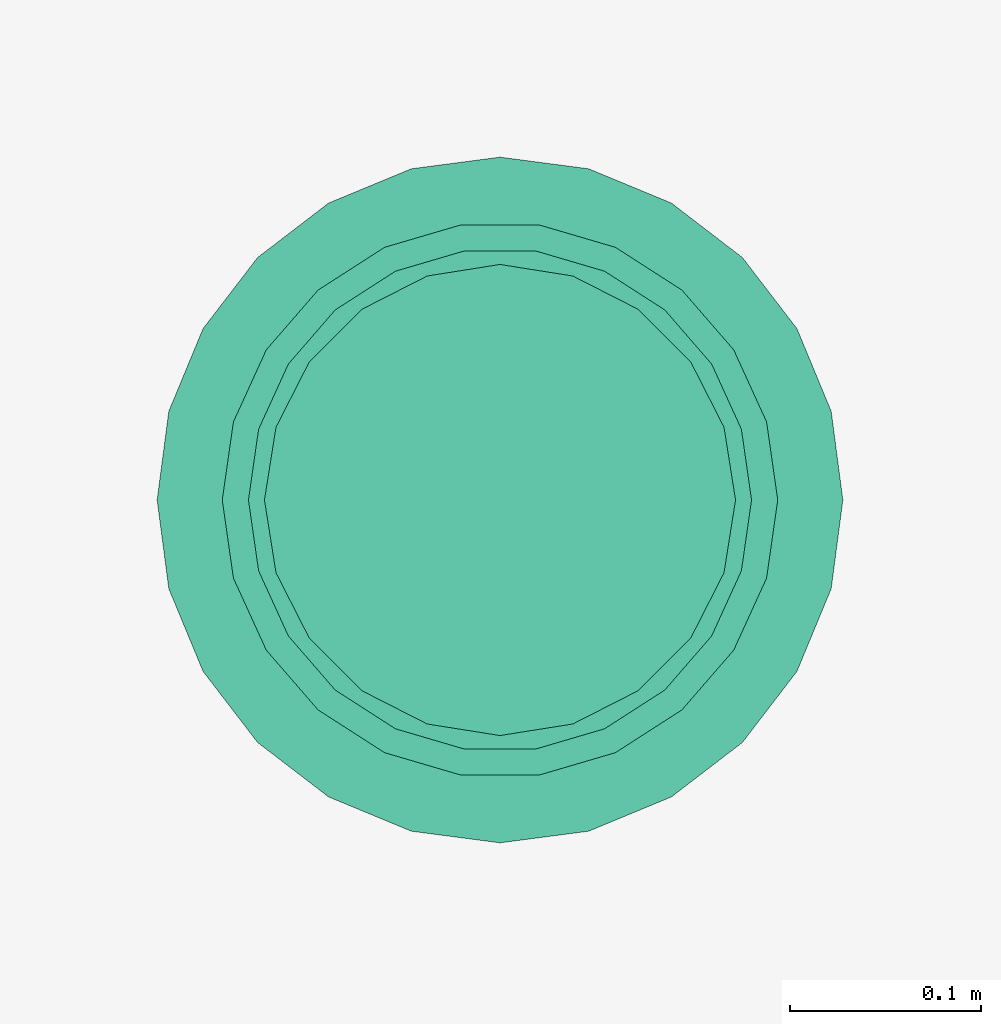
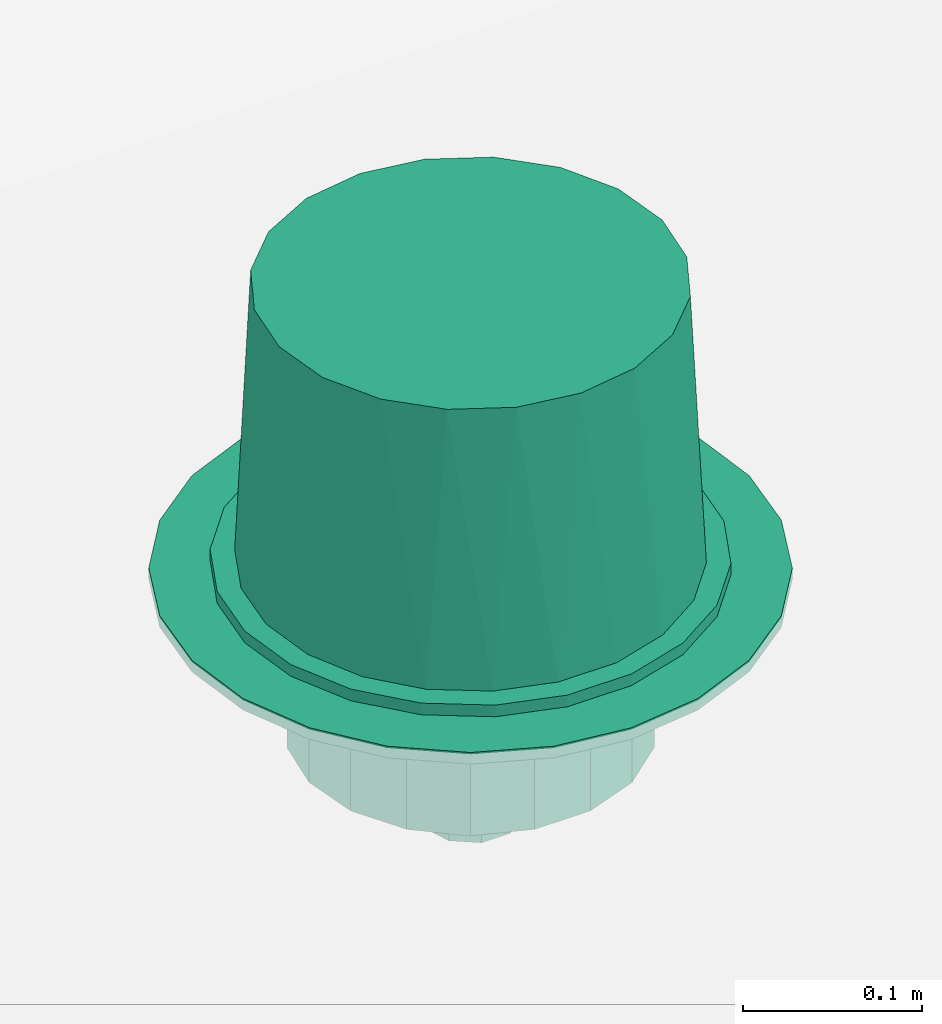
# One storey, part 5 of 6: 1 flow terminal.
"""IFC2X3 building model written with IfcOpenShell, lengths in millimetres."""

from ifc_helpers import new_model, entity, si_unit, converted_unit, direction, frame, origin, place, context, subcontext, project, spatial, faceted_brep, source, transform, mapped, material, material_list, type_object, type_shapes, element, save


model = new_model("IFC2X3")

# Units and contexts
model_context = context("Model", 3, precision=0.01, world=origin(), true_north=direction((6.123233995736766e-17, 1.0)))
plan_context = context("Plan", 3, precision=0.01, world=origin(), true_north=direction((6.123233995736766e-17, 1.0)))
body_context = subcontext(model_context, "Body", "Model", "MODEL_VIEW")
ifc_project = project(units=[si_unit("LENGTHUNIT", "METRE", prefix="MILLI"), converted_unit("PLANEANGLEUNIT", "DEGREE", entity("IfcPlaneAngleMeasure", 0.017453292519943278), si_unit("PLANEANGLEUNIT", "RADIAN"), dimensions=[0, 0, 0, 0, 0, 0, 0]), si_unit("AREAUNIT", "SQUARE_METRE")], contexts=[model_context, plan_context])

# Site, building, storey
site_placement = place(None, origin())
site = spatial("IfcSite", under=ifc_project, at=site_placement, Name="Default", CompositionType="ELEMENT")
building_placement = place(site_placement, origin())
building = spatial("IfcBuilding", under=site, at=building_placement, CompositionType="ELEMENT")
storey_placement = place(building_placement, frame((0.0, 0.0, 16500.0)))
storey = spatial("IfcBuildingStorey", under=building, at=storey_placement, Name="Parapet", CompositionType="ELEMENT", Elevation=16499.999999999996)

# Flow terminal
ifc_material_1 = material(Name="Metal-WATTS-Cast Iron")
ifc_material_2 = material(Name="Platic-WATTS_Polyethylene")
ifc_material_list = material_list([ifc_material_1, ifc_material_2])
distribution_element_type = type_object("IfcDistributionElementType", Name="Drain-Roof-WATTS-Large_Area-Type_RD-100:2\"", material=ifc_material_list)
shared_shape = source(origin(), body_context, "Body", "Brep", [
    faceted_brep([(-173.21368287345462, 46.41246644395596, 0.0), (-173.21368287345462, 46.41246644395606, -7.924800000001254), (-179.32399999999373, 0.0, -7.924800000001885), (-179.32399999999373, 0.0, 0.0), (-155.29913950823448, 89.66199999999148, 0.0), (-155.29913950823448, 89.66199999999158, -7.924800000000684), (-89.6619999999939, 155.29913950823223, -7.924799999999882), (-126.80121642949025, 126.80121642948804, -7.924800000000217), (-126.80121642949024, 126.80121642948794, 0.0), (-89.66199999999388, 155.29913950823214, 0.0), (-46.41246644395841, 173.21368287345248, -7.9247999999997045), (-46.412466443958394, 173.21368287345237, 0.0), (0.0, 179.32399999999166, -7.924799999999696), (0.0, 179.32399999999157, 0.0), (46.41246644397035, 173.2136828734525, 0.0), (46.41246644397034, 173.21368287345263, -7.924799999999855), (155.2991395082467, 89.66199999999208, -7.924800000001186), (155.2991395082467, 89.66199999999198, 0.0), (173.213682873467, 46.412466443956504, 0.0), (173.213682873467, 46.41246644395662, -7.924800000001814), (126.80121642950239, 126.80121642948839, -7.924800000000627), (126.8012164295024, 126.80121642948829, 0.0), (179.32400000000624, 0.0, 0.0), (179.32400000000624, 0.0, -7.924800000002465), (89.66200000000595, 155.29913950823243, 0.0), (89.66200000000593, 155.29913950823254, -7.924800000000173), (173.21368287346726, -46.41246644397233, 0.0), (173.21368287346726, -46.412466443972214, -7.9248000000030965), (155.29913950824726, -89.66200000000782, 0.0), (155.29913950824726, -89.66200000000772, -7.924800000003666), (89.66200000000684, -155.2991395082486, -7.924800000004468), (126.8012164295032, -126.80121642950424, -7.924800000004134), (126.80121642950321, -126.80121642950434, 0.0), (89.66200000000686, -155.29913950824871, 0.0), (46.41246644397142, -173.213682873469, -7.9248000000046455), (46.41246644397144, -173.2136828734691, 0.0), (0.0, -179.3240000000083, -7.924800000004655), (0.0, -179.32400000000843, 0.0), (-46.41246644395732, -173.2136828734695, 0.0), (-46.412466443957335, -173.2136828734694, -7.924800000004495), (-89.66199999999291, -155.29913950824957, 0.0), (-89.66199999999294, -155.29913950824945, -7.924800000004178), (-155.29913950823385, -89.66200000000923, -7.924800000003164), (-126.80121642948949, -126.80121642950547, -7.9248000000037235), (-126.80121642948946, -126.80121642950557, 0.0), (-155.29913950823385, -89.66200000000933, 0.0), (-173.21368287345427, -46.41246644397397, -7.924800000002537), (-173.21368287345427, -46.412466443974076, 0.0), (157.17520000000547, 0.0, -7.924800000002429), (151.8195849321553, -40.679935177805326, -7.924800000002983), (136.11771604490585, -78.58760000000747, -7.924800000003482), (111.13964975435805, -111.13964975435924, -7.924800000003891), (78.58760000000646, -136.1177160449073, -7.9248000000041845), (40.679935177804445, -151.81958493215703, -7.92480000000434), (0.0, -157.1752000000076, -7.924800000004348), (-40.67993517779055, -151.8195849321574, -7.9248000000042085), (-78.58759999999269, -136.117716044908, -7.9248000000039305), (-111.13964975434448, -111.13964975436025, -7.924800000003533), (-136.11771604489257, -78.58760000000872, -7.924800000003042), (-151.81958493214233, -40.67993517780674, -7.9248000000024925), (-157.17519999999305, 0.0, -7.924800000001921), (-151.81958493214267, 40.67993517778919, -7.924800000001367), (-136.1177160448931, 78.58759999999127, -7.924800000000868), (-111.13964975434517, 111.13964975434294, -7.924800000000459), (-78.58759999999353, 136.11771604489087, -7.924800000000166), (-40.67993517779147, 151.8195849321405, -7.924800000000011), (0.0, 157.17519999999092, -7.924800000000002), (40.67993517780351, 151.81958493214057, -7.9248000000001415), (78.5876000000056, 136.11771604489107, -7.9248000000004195), (111.13964975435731, 111.13964975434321, -7.924800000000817), (136.11771604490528, 78.58759999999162, -7.924800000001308), (151.81958493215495, 40.67993517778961, -7.924800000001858), (-136.11771604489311, 78.5875999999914, -16.66240000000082), (-151.81958493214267, 40.679935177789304, -16.662400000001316), (-157.17519999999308, 0.0, -16.66240000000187), (-40.679935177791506, 151.81958493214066, -16.66239999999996), (-78.58759999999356, 136.11771604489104, -16.662400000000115), (-111.1396497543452, 111.13964975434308, -16.662400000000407), (0.0, 157.17519999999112, -16.662399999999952), (78.58760000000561, 136.11771604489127, -16.662400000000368), (40.67993517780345, 151.8195849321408, -16.66240000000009), (136.11771604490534, 78.58759999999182, -16.66240000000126), (111.13964975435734, 111.13964975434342, -16.662400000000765), (151.819584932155, 40.67993517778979, -16.662400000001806), (157.17520000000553, 0.0, -16.66240000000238), (136.11771604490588, -78.58760000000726, -16.662400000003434), (151.81958493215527, -40.6799351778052, -16.662400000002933), (40.67993517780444, -151.8195849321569, -16.66240000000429), (78.58760000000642, -136.11771604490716, -16.662400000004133), (111.13964975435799, -111.13964975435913, -16.662400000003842), (0.0, -157.1752000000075, -16.6624000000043), (-111.1396497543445, -111.13964975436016, -16.662400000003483), (-78.58759999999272, -136.11771604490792, -16.66240000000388), (-40.67993517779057, -151.81958493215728, -16.66240000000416), (-151.81958493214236, -40.67993517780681, -16.662400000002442), (-136.1177160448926, -78.58760000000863, -16.662400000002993), (103.9876000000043, 0.0, -16.662400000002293), (97.71638037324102, 35.56585385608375, -16.662400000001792), (97.71638037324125, -35.56585385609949, -16.662400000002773), (79.65912313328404, -66.84194084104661, -16.662400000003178), (51.993800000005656, -90.05590327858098, -16.66240000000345), (18.057257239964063, -102.4077946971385, -16.66240000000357), (-18.057257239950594, -102.40779469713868, -16.66240000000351), (-51.993799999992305, -90.05590327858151, -16.662400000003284), (-79.65912313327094, -66.8419408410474, -16.66240000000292), (-97.71638037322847, -35.56585385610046, -16.66240000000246), (-103.98759999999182, 0.0, -16.66240000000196), (-97.71638037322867, 35.56585385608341, -16.662400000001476), (-79.65912313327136, 66.84194084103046, -16.66240000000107), (-51.993799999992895, 90.05590327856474, -16.662400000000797), (-18.05725723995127, 102.40779469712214, -16.66240000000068), (18.057257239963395, 102.40779469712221, -16.662400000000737), (51.99380000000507, 90.05590327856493, -16.662400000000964), (79.65912313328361, 66.84194084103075, -16.66240000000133), (-97.71638037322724, 35.56585385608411, -109.52479999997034), (-103.98759999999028, 0.0, -109.52479999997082), (-18.05725723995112, 102.40779469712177, -109.52479999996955), (-51.99379999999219, 90.0559032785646, -109.52479999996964), (-79.65912313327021, 66.84194084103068, -109.52479999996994), (18.05725723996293, 102.40779469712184, -109.5247999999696), (51.993800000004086, 90.05590327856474, -109.52479999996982), (79.65912313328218, 66.84194084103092, -109.5247999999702), (97.7163803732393, 35.56585385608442, -109.52479999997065), (103.98760000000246, 0.0, -109.52479999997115), (97.71638037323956, -35.56585385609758, -109.52479999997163), (79.65912313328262, -66.84194084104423, -109.52479999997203), (51.99380000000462, -90.05590327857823, -109.52479999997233), (18.05725723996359, -102.40779469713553, -109.52479999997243), (-18.057257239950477, -102.4077946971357, -109.52479999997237), (-51.99379999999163, -90.05590327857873, -109.52479999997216), (-79.65912313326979, -66.84194084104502, -109.52479999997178), (-97.71638037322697, -35.56585385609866, -109.52479999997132), (29.718000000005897, 0.0, -109.52479999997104), (26.880183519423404, 8.733901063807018, -109.52479999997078), (24.042367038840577, 17.467802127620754, -109.52479999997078), (26.88018351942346, -8.733901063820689, -109.52479999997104), (24.04236703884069, -17.467802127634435, -109.52479999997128), (16.61286703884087, -22.865649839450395, -109.52479999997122), (9.183367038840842, -28.26349755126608, -109.52479999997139), (0.0, -28.263497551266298, -109.52479999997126), (-9.183367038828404, -28.26349755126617, -109.52479999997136), (-16.61286703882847, -22.865649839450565, -109.52479999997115), (-24.04236703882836, -17.467802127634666, -109.5247999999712), (-26.8801835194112, -8.733901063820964, -109.52479999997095), (-29.71799999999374, 0.0, -109.52479999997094), (-26.880183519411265, 8.733901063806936, -109.5247999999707), (-24.042367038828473, 17.467802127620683, -109.5247999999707), (-16.61286703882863, 22.865649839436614, -109.52479999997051), (-9.183367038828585, 28.263497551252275, -109.52479999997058), (0.0, 28.263497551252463, -109.52479999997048), (9.183367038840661, 28.263497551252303, -109.52479999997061), (16.61286703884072, 22.865649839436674, -109.52479999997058), (-24.042367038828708, 17.467802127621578, -166.6747999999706), (-27.09249497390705, 8.080473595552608, -166.67479999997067), (-29.717999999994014, 0.0, -166.67479999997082), (9.183367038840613, 28.263497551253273, -166.67479999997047), (24.04236703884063, 17.46780212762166, -166.67479999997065), (16.612867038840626, 22.865649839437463, -166.67479999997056), (-9.183367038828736, 28.263497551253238, -166.67479999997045), (-16.612867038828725, 22.86564983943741, -166.6747999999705), (0.0, 28.263497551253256, -166.67479999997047), (27.09249506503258, 8.08047331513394, -166.67479999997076), (29.718000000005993, 0.0, -166.6747999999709), (24.042367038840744, -17.467802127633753, -166.67479999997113), (9.18336703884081, -28.26349755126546, -166.67479999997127), (16.612867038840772, -22.865649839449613, -166.67479999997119), (26.88018351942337, -8.733901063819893, -166.67479999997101), (-27.092495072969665, -8.080473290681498, -166.67479999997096), (-24.042367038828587, -17.467802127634, -166.67479999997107), (-9.18336703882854, -28.26349755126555, -166.6747999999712), (0.0, -28.263497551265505, -166.6747999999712), (-16.61286703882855, -22.865649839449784, -166.67479999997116), (0.0, 0.0, -166.67479999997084), (0.0, 0.0, 0.0)], [[[0, 1, 2, 3]], [[4, 5, 1, 0]], [[6, 7, 8, 9]], [[4, 8, 7, 5]], [[10, 6, 9, 11]], [[12, 10, 11, 13]], [[13, 14, 15, 12]], [[16, 17, 18, 19]], [[17, 16, 20, 21]], [[19, 18, 22, 23]], [[15, 14, 24, 25]], [[24, 21, 20, 25]], [[26, 27, 23, 22]], [[28, 29, 27, 26]], [[30, 31, 32, 33]], [[28, 32, 31, 29]], [[34, 30, 33, 35]], [[36, 34, 35, 37]], [[38, 39, 36, 37]], [[40, 41, 39, 38]], [[42, 43, 44, 45]], [[40, 44, 43, 41]], [[46, 47, 3, 2]], [[46, 42, 45, 47]], [[23, 48, 19]], [[23, 27, 48]], [[48, 27, 49]], [[29, 49, 27]], [[50, 49, 29]], [[31, 50, 29]], [[50, 31, 51]], [[51, 31, 30]], [[51, 30, 52]], [[52, 30, 34]], [[34, 53, 52]], [[36, 53, 34]], [[53, 36, 54]], [[55, 54, 36]], [[36, 39, 55]], [[55, 39, 56]], [[41, 56, 39]], [[57, 56, 41]], [[57, 41, 43]], [[57, 43, 58]], [[43, 42, 58]], [[59, 58, 42]], [[46, 59, 42]], [[46, 60, 59]], [[2, 60, 46]], [[60, 2, 1]], [[60, 1, 61]], [[5, 61, 1]], [[62, 61, 5]], [[62, 5, 7]], [[7, 63, 62]], [[63, 7, 6]], [[6, 64, 63]], [[64, 6, 10]], [[10, 65, 64]], [[12, 65, 10]], [[12, 66, 65]], [[12, 67, 66]], [[67, 12, 15]], [[68, 67, 15]], [[68, 15, 25]], [[25, 69, 68]], [[20, 69, 25]], [[69, 20, 70]], [[16, 70, 20]], [[16, 71, 70]], [[71, 16, 19]], [[19, 48, 71]], [[61, 62, 72, 73]], [[60, 61, 73, 74]], [[64, 65, 75, 76]], [[63, 64, 76, 77]], [[62, 63, 77, 72]], [[78, 75, 65, 66]], [[79, 80, 67, 68]], [[80, 78, 66, 67]], [[70, 81, 82, 69]], [[79, 68, 69, 82]], [[81, 70, 71, 83]], [[84, 83, 71, 48]], [[49, 50, 85, 86]], [[48, 49, 86, 84]], [[52, 53, 87, 88]], [[51, 52, 88, 89]], [[50, 51, 89, 85]], [[90, 87, 53, 54]], [[56, 57, 91, 92]], [[55, 56, 92, 93]], [[59, 60, 74, 94]], [[58, 59, 94, 95]], [[57, 58, 95, 91]], [[55, 93, 90, 54]], [[83, 84, 96]], [[96, 97, 83]], [[83, 97, 81]], [[96, 84, 86]], [[98, 96, 86]], [[98, 86, 85]], [[99, 98, 85]], [[85, 89, 99]], [[89, 100, 99]], [[89, 88, 100]], [[87, 100, 88]], [[100, 87, 101]], [[101, 87, 90]], [[90, 102, 101]], [[90, 93, 102]], [[102, 93, 103]], [[92, 103, 93]], [[103, 92, 91]], [[103, 91, 104]], [[104, 91, 95]], [[105, 104, 95]], [[94, 105, 95]], [[106, 105, 94]], [[94, 74, 106]], [[73, 106, 74]], [[107, 106, 73]], [[107, 73, 72]], [[108, 107, 72]], [[108, 72, 77]], [[77, 109, 108]], [[109, 77, 76]], [[109, 76, 75]], [[75, 110, 109]], [[78, 110, 75]], [[110, 78, 111]], [[80, 111, 78]], [[112, 111, 80]], [[112, 80, 79]], [[82, 112, 79]], [[82, 81, 113]], [[113, 112, 82]], [[81, 97, 113]], [[114, 115, 106, 107]], [[109, 110, 116, 117]], [[107, 108, 118, 114]], [[109, 117, 118, 108]], [[110, 111, 119, 116]], [[119, 111, 112, 120]], [[121, 113, 97, 122]], [[112, 113, 121, 120]], [[122, 97, 96, 123]], [[124, 123, 96, 98]], [[125, 99, 100, 126]], [[98, 99, 125, 124]], [[126, 100, 101, 127]], [[101, 102, 128, 127]], [[128, 102, 103, 129]], [[130, 104, 105, 131]], [[103, 104, 130, 129]], [[131, 105, 106, 115]], [[122, 123, 132]], [[122, 132, 133]], [[122, 133, 134]], [[122, 134, 121]], [[123, 124, 132]], [[124, 135, 132]], [[124, 136, 135]], [[136, 124, 125]], [[136, 125, 126]], [[126, 137, 136]], [[126, 138, 137]], [[138, 126, 127]], [[127, 128, 138]], [[128, 139, 138]], [[128, 140, 139]], [[140, 128, 129]], [[129, 141, 140]], [[129, 142, 141]], [[129, 130, 142]], [[131, 142, 130]], [[131, 143, 142]], [[131, 144, 143]], [[115, 144, 131]], [[115, 114, 144]], [[114, 145, 144]], [[114, 146, 145]], [[114, 118, 146]], [[118, 117, 146]], [[117, 147, 146]], [[117, 148, 147]], [[116, 148, 117]], [[116, 149, 148]], [[116, 150, 149]], [[150, 116, 119]], [[150, 119, 120]], [[120, 134, 151]], [[121, 134, 120]], [[120, 151, 150]], [[152, 153, 154, 144, 145, 146]], [[155, 150, 151, 134, 156, 157]], [[148, 158, 159, 152, 146, 147]], [[160, 158, 148, 149, 150, 155]], [[161, 156, 134, 133, 132, 162]], [[163, 136, 137, 138, 164, 165]], [[166, 162, 132, 135, 136, 163]], [[144, 154, 167, 168, 142, 143]], [[164, 138, 139, 140, 169, 170]], [[171, 169, 140, 141, 142, 168]], [[172, 155, 157]], [[172, 157, 156]], [[172, 156, 161]], [[172, 161, 162]], [[172, 162, 166]], [[172, 160, 155]], [[172, 158, 160]], [[172, 159, 158]], [[172, 152, 159]], [[172, 153, 152]], [[172, 154, 153]], [[172, 166, 163]], [[172, 163, 165]], [[172, 165, 164]], [[172, 164, 170]], [[172, 167, 154]], [[172, 168, 167]], [[172, 171, 168]], [[172, 169, 171]], [[172, 170, 169]], [[18, 173, 22]], [[17, 173, 18]], [[21, 173, 17]], [[24, 173, 21]], [[24, 14, 173]], [[14, 13, 173]], [[13, 11, 173]], [[9, 173, 11]], [[8, 173, 9]], [[4, 173, 8]], [[4, 0, 173]], [[0, 3, 173]], [[173, 3, 47]], [[47, 45, 173]], [[44, 173, 45]], [[44, 40, 173]], [[40, 38, 173]], [[37, 173, 38]], [[173, 37, 35]], [[35, 33, 173]], [[32, 173, 33]], [[173, 32, 28]], [[173, 28, 26]], [[173, 26, 22]]]),
    faceted_brep([(95.14340631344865, 109.8013441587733, 0.0), (122.22404327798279, 78.54862308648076, 0.0), (0.0, 0.0, 0.0), (60.35481640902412, 132.158613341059, 0.0), (139.40281515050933, 40.9323597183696, 0.0), (145.28800000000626, 0.0, 0.0), (139.40281515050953, -40.93235971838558, 0.0), (122.22404327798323, -78.54862308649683, 0.0), (95.1434063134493, -109.80134415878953, 0.0), (60.35481640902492, -132.15861334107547, 0.0), (20.676638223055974, -143.80917764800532, 0.0), (-20.6766382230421, -143.80917764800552, 0.0), (-60.354816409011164, -132.15861334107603, 0.0), (-95.14340631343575, -109.80134415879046, 0.0), (-122.22404327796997, -78.54862308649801, 0.0), (-139.40281515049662, -40.93235971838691, 0.0), (-145.28799999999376, 0.0, 0.0), (-139.40281515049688, 40.93235971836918, 0.0), (-122.22404327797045, 78.54862308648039, 0.0), (-95.14340631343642, 109.801344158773, 0.0), (-60.35481640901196, 132.1586133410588, 0.0), (-20.67663822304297, 143.80917764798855, 0.0), (20.676638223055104, 143.8091776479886, 0.0), (117.16065224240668, 38.06780353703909, 193.64960000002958), (0.0, 0.0, 193.64960000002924), (123.19000000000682, 0.0, 193.64960000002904), (99.66280353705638, 72.40926522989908, 193.6496000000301), (72.40926522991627, 99.66280353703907, 193.6496000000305), (38.0678035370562, 117.16065224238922, 193.6496000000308), (0.0, 123.18999999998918, 193.64960000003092), (-38.06780353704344, 117.16065224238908, 193.64960000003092), (-72.40926522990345, 99.66280353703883, 193.64960000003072), (-99.66280353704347, 72.40926522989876, 193.64960000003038), (-117.1606522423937, 38.06780353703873, 193.64960000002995), (-123.18999999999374, 0.0, 193.64960000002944), (-117.16065224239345, -38.06780353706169, 193.6496000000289), (-99.66280353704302, -72.40926522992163, 193.64960000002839), (-72.40926522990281, -99.66280353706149, 193.649600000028), (-38.06780353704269, -117.16065224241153, 193.64960000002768), (0.0, -123.1900000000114, 193.64960000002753), (38.06780353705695, -117.16065224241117, 193.64960000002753), (72.40926522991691, -99.66280353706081, 193.64960000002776), (99.66280353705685, -72.40926522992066, 193.64960000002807), (117.16065224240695, -38.06780353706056, 193.64960000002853), (-126.24240952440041, 37.06811596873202, 7.924800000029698), (-86.16133648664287, 99.43548299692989, 7.924800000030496), (-54.65698409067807, 119.68210089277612, 7.924800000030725), (-110.68540982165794, 71.1331936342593, 7.924800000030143), (-131.57199999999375, 0.0, 7.924800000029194), (-18.724647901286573, 130.23278675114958, 7.924800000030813), (18.724647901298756, 130.2327867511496, 7.924800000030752), (54.656984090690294, 119.68210089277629, 7.924800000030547), (110.68540982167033, 71.13319363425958, 7.924800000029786), (86.16133648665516, 99.43548299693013, 7.924800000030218), (126.24240952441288, 37.06811596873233, 7.924800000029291), (131.5720000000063, 0.0, 7.924800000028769), (126.24240952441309, -37.068115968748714, 7.924800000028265), (86.16133648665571, -99.43548299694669, 7.924800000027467), (110.6854098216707, -71.13319363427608, 7.924800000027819), (54.65698409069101, -119.68210089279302, 7.924800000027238), (18.72464790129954, -130.23278675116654, 7.92480000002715), (-18.724647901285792, -130.2327867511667, 7.924800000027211), (-54.656984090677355, -119.68210089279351, 7.924800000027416), (-110.68540982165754, -71.13319363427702, 7.924800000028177), (-86.16133648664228, -99.43548299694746, 7.924800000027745), (-126.24240952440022, -37.06811596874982, 7.9248000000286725), (139.40281515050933, 40.93235971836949, 7.924800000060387), (145.28800000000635, 0.0, 7.924800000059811), (122.2240432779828, 78.54862308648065, 7.924800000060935), (95.14340631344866, 109.80134415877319, 7.924800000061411), (60.35481640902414, 132.1586133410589, 7.924800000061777), (20.676638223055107, 143.8091776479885, 7.924800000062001), (-20.676638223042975, 143.80917764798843, 7.924800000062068), (-60.35481640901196, 132.1586133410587, 7.924800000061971), (-95.14340631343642, 109.80134415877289, 7.924800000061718), (-122.22404327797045, 78.54862308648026, 7.92480000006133), (-139.40281515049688, 40.93235971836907, 7.924800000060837), (-145.28799999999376, 0.0, 7.924800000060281), (-139.40281515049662, -40.932359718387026, 7.924800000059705), (-122.22404327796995, -78.54862308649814, 7.924800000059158), (-95.14340631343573, -109.80134415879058, 7.924800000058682), (-60.354816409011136, -132.15861334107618, 7.924800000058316), (-20.676638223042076, -143.80917764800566, 7.924800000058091), (20.676638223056, -143.80917764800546, 7.924800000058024), (60.354816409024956, -132.1586133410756, 7.924800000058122), (95.14340631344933, -109.80134415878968, 7.924800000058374), (122.22404327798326, -78.54862308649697, 7.924800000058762), (139.40281515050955, -40.9323597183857, 7.924800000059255)], [[[0, 1, 2]], [[0, 2, 3]], [[4, 2, 1]], [[2, 4, 5]], [[5, 6, 2]], [[2, 6, 7]], [[2, 7, 8]], [[2, 8, 9]], [[9, 10, 2]], [[11, 2, 10]], [[2, 11, 12]], [[2, 12, 13]], [[14, 2, 13]], [[2, 14, 15]], [[15, 16, 2]], [[2, 16, 17]], [[2, 17, 18]], [[18, 19, 2]], [[19, 20, 2]], [[21, 2, 20]], [[2, 21, 22]], [[22, 3, 2]], [[23, 24, 25]], [[26, 24, 23]], [[26, 27, 24]], [[28, 24, 27]], [[28, 29, 24]], [[24, 29, 30]], [[30, 31, 24]], [[24, 31, 32]], [[32, 33, 24]], [[33, 34, 24]], [[34, 35, 24]], [[36, 24, 35]], [[36, 37, 24]], [[37, 38, 24]], [[39, 24, 38]], [[24, 39, 40]], [[40, 41, 24]], [[41, 42, 24]], [[42, 43, 24]], [[24, 43, 25]], [[44, 34, 33]], [[45, 32, 31]], [[46, 31, 30]], [[47, 33, 32]], [[34, 44, 48]], [[44, 33, 47]], [[32, 45, 47]], [[31, 46, 45]], [[30, 49, 46]], [[30, 29, 49]], [[50, 29, 28]], [[27, 51, 28]], [[52, 26, 23]], [[27, 26, 53]], [[54, 23, 25]], [[28, 51, 50]], [[27, 53, 51]], [[52, 53, 26]], [[23, 54, 52]], [[25, 55, 54]], [[29, 50, 49]], [[56, 25, 43]], [[57, 42, 41]], [[43, 42, 58]], [[59, 41, 40]], [[25, 56, 55]], [[43, 58, 56]], [[57, 58, 42]], [[41, 59, 57]], [[40, 60, 59]], [[40, 39, 60]], [[61, 39, 38]], [[37, 62, 38]], [[63, 36, 35]], [[37, 36, 64]], [[65, 35, 34]], [[38, 62, 61]], [[37, 64, 62]], [[63, 64, 36]], [[35, 65, 63]], [[34, 48, 65]], [[39, 61, 60]], [[66, 55, 67]], [[54, 55, 66]], [[66, 68, 54]], [[68, 52, 54]], [[69, 52, 68]], [[52, 69, 53]], [[70, 53, 69]], [[51, 53, 70]], [[70, 71, 51]], [[71, 50, 51]], [[49, 50, 71]], [[71, 72, 49]], [[72, 46, 49]], [[73, 46, 72]], [[46, 73, 45]], [[74, 45, 73]], [[47, 45, 74]], [[74, 75, 47]], [[75, 44, 47]], [[76, 44, 75]], [[44, 76, 48]], [[76, 77, 48]], [[77, 78, 48]], [[65, 48, 78]], [[78, 79, 65]], [[65, 79, 63]], [[80, 63, 79]], [[63, 80, 64]], [[64, 80, 81]], [[62, 64, 81]], [[81, 82, 62]], [[62, 82, 61]], [[83, 61, 82]], [[61, 83, 60]], [[60, 83, 59]], [[84, 59, 83]], [[59, 84, 57]], [[57, 84, 85]], [[58, 57, 85]], [[85, 86, 58]], [[58, 86, 56]], [[87, 56, 86]], [[55, 87, 67]], [[56, 87, 55]], [[76, 17, 16, 77]], [[75, 18, 17, 76]], [[19, 74, 73, 20]], [[75, 74, 19, 18]], [[20, 73, 72, 21]], [[72, 71, 22, 21]], [[70, 69, 0, 3]], [[71, 70, 3, 22]], [[4, 1, 68, 66]], [[69, 68, 1, 0]], [[67, 5, 4, 66]], [[87, 6, 5, 67]], [[86, 7, 6, 87]], [[8, 85, 84, 9]], [[86, 85, 8, 7]], [[9, 84, 83, 10]], [[83, 82, 11, 10]], [[81, 12, 11, 82]], [[80, 13, 12, 81]], [[14, 79, 78, 15]], [[80, 79, 14, 13]], [[15, 78, 77, 16]]]),
])
type_shapes(distribution_element_type, [shared_shape])
flow_terminal_placement = place(storey_placement, frame((5734.997197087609, 5690.0, -374.0)))
element("IfcFlowTerminal", 1, at=flow_terminal_placement, inside=storey, type_object=distribution_element_type, material=ifc_material_list, Name="Drain-Roof-WATTS-Large_Area-Type_RD-100:2\"", ObjectType="Drain-Roof-WATTS-Large_Area-Type_RD-100:2\"", context=body_context, shape_type="MappedRepresentation", body=[
    mapped(shared_shape, transform((0.0, 0.0, 0.0), scale=1.0)),
])

save(model, "model.ifc")
